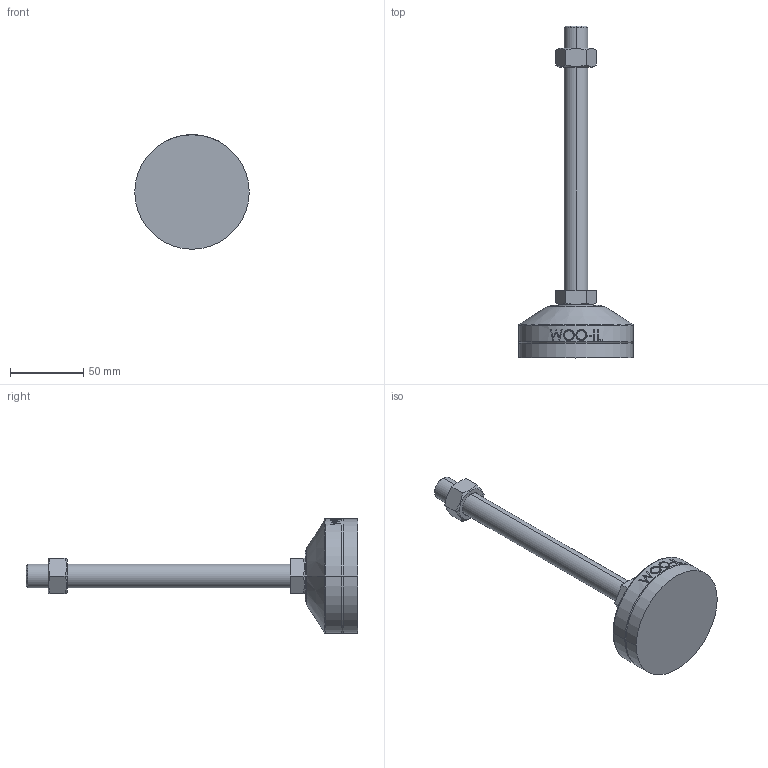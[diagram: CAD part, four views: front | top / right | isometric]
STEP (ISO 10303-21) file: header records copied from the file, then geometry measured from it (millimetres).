
FILE_DESCRIPTION (( 'STEP AP214' ), '1' );
FILE_NAME ('MFR78-M16-180.step', '2021-01-13T05:37:45', ( '' ), ( '' ), 'SwSTEP 2.0', 'SolidWorks 2019', '' );
FILE_SCHEMA (( 'AUTOMOTIVE_DESIGN' ));
Length unit declared in the file: millimetre
Products named in the file (2): MFR78-M16-180
Bounding box: 78 x 226 x 78 mm (x, y, z)
Volume: 188131.8 mm3; surface area: 38320.9 mm2
Topology: 4 solids, 4 shells, 103 faces, 235 edges, 150 vertices
Faces by surface type: plane 49, cylinder 18, bspline 16, cone 14, torus 6
Entity records: 4435 total; most frequent: CARTESIAN_POINT 2162, ORIENTED_EDGE 470, DIRECTION 417, EDGE_CURVE 235, AXIS2_PLACEMENT_3D 159, VERTEX_POINT 150, EDGE_LOOP 115, ADVANCED_FACE 103
